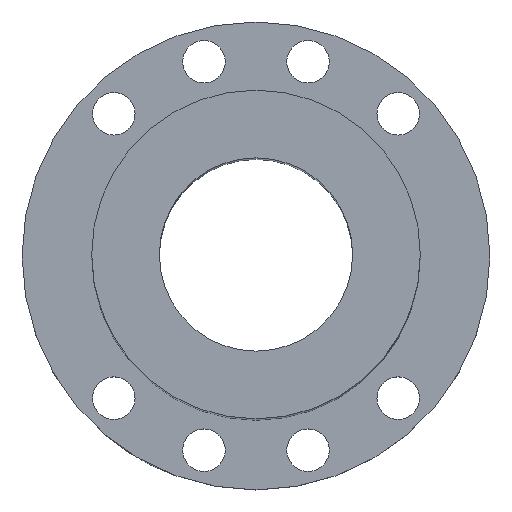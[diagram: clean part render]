
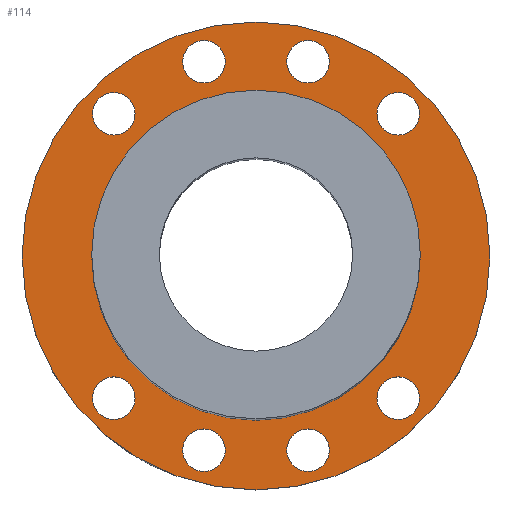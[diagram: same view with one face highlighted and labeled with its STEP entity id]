
A CAD part, top view. The second image highlights one B-rep face of the part: STEP entity #114.
In plain terms, the highlighted planar face has unit normal (0, 0, 1).
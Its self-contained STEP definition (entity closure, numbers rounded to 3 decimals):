
#99=PLANE('',#401);
#114=ADVANCED_FACE('',(#169,#170,#171,#172,#173,#174,#175,#176,#177,#178),
#99,.T.);
#169=FACE_BOUND('',#221,.T.);
#170=FACE_BOUND('',#222,.T.);
#171=FACE_BOUND('',#223,.T.);
#172=FACE_BOUND('',#224,.T.);
#173=FACE_BOUND('',#225,.T.);
#174=FACE_BOUND('',#226,.T.);
#175=FACE_BOUND('',#227,.T.);
#176=FACE_BOUND('',#228,.T.);
#177=FACE_BOUND('',#229,.T.);
#178=FACE_BOUND('',#230,.T.);
#221=EDGE_LOOP('',(#273));
#222=EDGE_LOOP('',(#274));
#223=EDGE_LOOP('',(#275));
#224=EDGE_LOOP('',(#276));
#225=EDGE_LOOP('',(#277));
#226=EDGE_LOOP('',(#278));
#227=EDGE_LOOP('',(#279));
#228=EDGE_LOOP('',(#280));
#229=EDGE_LOOP('',(#281));
#230=EDGE_LOOP('',(#282));
#273=ORIENTED_EDGE('',*,*,#316,.T.);
#274=ORIENTED_EDGE('',*,*,#337,.T.);
#275=ORIENTED_EDGE('',*,*,#336,.T.);
#276=ORIENTED_EDGE('',*,*,#335,.F.);
#277=ORIENTED_EDGE('',*,*,#334,.F.);
#278=ORIENTED_EDGE('',*,*,#333,.F.);
#279=ORIENTED_EDGE('',*,*,#318,.T.);
#280=ORIENTED_EDGE('',*,*,#332,.F.);
#281=ORIENTED_EDGE('',*,*,#331,.T.);
#282=ORIENTED_EDGE('',*,*,#338,.T.);
#290=VERTEX_POINT('',#495);
#292=VERTEX_POINT('',#557);
#305=VERTEX_POINT('',#644);
#306=VERTEX_POINT('',#647);
#307=VERTEX_POINT('',#650);
#308=VERTEX_POINT('',#653);
#309=VERTEX_POINT('',#656);
#310=VERTEX_POINT('',#659);
#311=VERTEX_POINT('',#662);
#312=VERTEX_POINT('',#665);
#316=EDGE_CURVE('',#290,#290,#342,.T.);
#318=EDGE_CURVE('',#292,#292,#343,.T.);
#331=EDGE_CURVE('',#305,#305,#355,.T.);
#332=EDGE_CURVE('',#306,#306,#356,.T.);
#333=EDGE_CURVE('',#307,#307,#357,.T.);
#334=EDGE_CURVE('',#308,#308,#358,.T.);
#335=EDGE_CURVE('',#309,#309,#359,.T.);
#336=EDGE_CURVE('',#310,#310,#360,.T.);
#337=EDGE_CURVE('',#311,#311,#361,.T.);
#338=EDGE_CURVE('',#312,#312,#362,.T.);
#342=CIRCLE('',#367,60.5);
#343=CIRCLE('',#369,42.5);
#355=CIRCLE('',#385,5.5);
#356=CIRCLE('',#387,5.5);
#357=CIRCLE('',#389,5.5);
#358=CIRCLE('',#391,5.5);
#359=CIRCLE('',#393,5.5);
#360=CIRCLE('',#395,5.5);
#361=CIRCLE('',#397,5.5);
#362=CIRCLE('',#399,5.5);
#367=AXIS2_PLACEMENT_3D('',#494,#411,#412);
#369=AXIS2_PLACEMENT_3D('',#556,#415,#416);
#385=AXIS2_PLACEMENT_3D('',#643,#447,#448);
#387=AXIS2_PLACEMENT_3D('',#646,#451,#452);
#389=AXIS2_PLACEMENT_3D('',#649,#455,#456);
#391=AXIS2_PLACEMENT_3D('',#652,#459,#460);
#393=AXIS2_PLACEMENT_3D('',#655,#463,#464);
#395=AXIS2_PLACEMENT_3D('',#658,#467,#468);
#397=AXIS2_PLACEMENT_3D('',#661,#471,#472);
#399=AXIS2_PLACEMENT_3D('',#664,#475,#476);
#401=AXIS2_PLACEMENT_3D('',#667,#479,#480);
#411=DIRECTION('',(0.,0.,1.));
#412=DIRECTION('',(1.,0.,0.));
#415=DIRECTION('',(0.,0.,-1.));
#416=DIRECTION('',(1.,0.,0.));
#447=DIRECTION('',(0.,0.,-1.));
#448=DIRECTION('',(1.,0.,0.));
#451=DIRECTION('',(0.,0.,1.));
#452=DIRECTION('',(-1.,0.,0.));
#455=DIRECTION('',(0.,0.,1.));
#456=DIRECTION('',(-1.,0.,0.));
#459=DIRECTION('',(0.,0.,1.));
#460=DIRECTION('',(1.,0.,0.));
#463=DIRECTION('',(0.,0.,1.));
#464=DIRECTION('',(1.,0.,0.));
#467=DIRECTION('',(0.,0.,-1.));
#468=DIRECTION('',(-1.,0.,0.));
#471=DIRECTION('',(0.,0.,-1.));
#472=DIRECTION('',(1.,0.,0.));
#475=DIRECTION('',(0.,0.,-1.));
#476=DIRECTION('',(-1.,0.,0.));
#479=DIRECTION('',(0.,0.,1.));
#480=DIRECTION('',(1.,0.,0.));
#494=CARTESIAN_POINT('',(0.,0.,16.));
#495=CARTESIAN_POINT('',(60.5,0.,16.));
#556=CARTESIAN_POINT('',(0.,0.,16.));
#557=CARTESIAN_POINT('',(42.5,0.,16.));
#643=CARTESIAN_POINT('',(-36.77,-36.77,16.));
#644=CARTESIAN_POINT('',(-31.27,-36.77,16.));
#646=CARTESIAN_POINT('',(13.459,-50.228,16.));
#647=CARTESIAN_POINT('',(7.959,-50.228,16.));
#649=CARTESIAN_POINT('',(36.77,-36.77,16.));
#650=CARTESIAN_POINT('',(31.27,-36.77,16.));
#652=CARTESIAN_POINT('',(-36.77,36.77,16.));
#653=CARTESIAN_POINT('',(-31.27,36.77,16.));
#655=CARTESIAN_POINT('',(-13.459,50.228,16.));
#656=CARTESIAN_POINT('',(-7.959,50.228,16.));
#658=CARTESIAN_POINT('',(36.77,36.77,16.));
#659=CARTESIAN_POINT('',(31.27,36.77,16.));
#661=CARTESIAN_POINT('',(-13.459,-50.228,16.));
#662=CARTESIAN_POINT('',(-7.959,-50.228,16.));
#664=CARTESIAN_POINT('',(13.459,50.228,16.));
#665=CARTESIAN_POINT('',(7.959,50.228,16.));
#667=CARTESIAN_POINT('',(-6.729,-25.114,16.));
